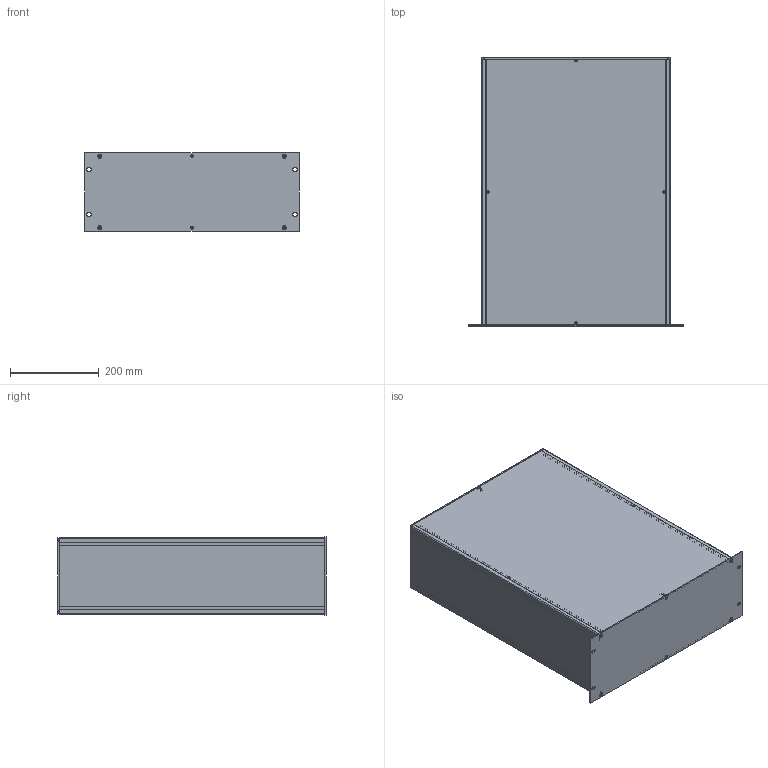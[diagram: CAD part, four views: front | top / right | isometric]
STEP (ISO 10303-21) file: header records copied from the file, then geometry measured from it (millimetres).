
FILE_DESCRIPTION(/* description */ (''),/* implementation_level */ '2;1');
FILE_NAME(/* name */ '//diskstation/Kunden/Gehäuse/Gehäuse/4HE/step/Zoll 4HE Rack Gehäuse Tiefe-600.step',/* time_stamp */ '2022-02-17T15:47:50+01:00',/* author */ (''),/* organization */ (''),/* preprocessor_version */ 'ST-DEVELOPER v18.1',/* originating_system */ 'Autodesk Translation Framework v10.10.0.1391',/* authorisation */ '');
FILE_SCHEMA (('AUTOMOTIVE_DESIGN { 1 0 10303 214 3 1 1 }'));
Length unit declared in the file: millimetre
Products named in the file (28): 4HE Gehäuse mit parametern; Gehäuse; Gehäuseprofil 1 unten links; Gehäuseprofil 2 oben rechts; Gehäuseprofil 1 unten rechts; Gehäuseprofil 2 oben links; Rückplatte; Deckel; Seitenteil links; Seitenteil rechts; Bodenplatte; Montageklotz Front/Deckel; Montageklotz Front/Boden; Montageklotz Rück/Deckel; Montageklotz Rück/Boden; Gewindestreifen; Frontplatte; Schrauben M5; Schraube Front; Schraube Front (1); Schraube Front (2); Schraube Front (3); Schraube Rück (1); Schraube Rück; Schraube Rück (2); Schraube Rück (3); Schrauben M3; HI_Senkschraube DIN 965 A v2 M3x5 24677.030.005(High)
Assembly tree (37 placements, depth 3):
  4HE Gehäuse mit parametern
    Gehäuse
      Gehäuseprofil 1 unten links
      Gehäuseprofil 2 oben rechts
      Gehäuseprofil 1 unten rechts
      Gehäuseprofil 2 oben links
      Rückplatte
      Deckel
      Seitenteil links
      Seitenteil rechts
      Bodenplatte
      Montageklotz Front/Deckel
      Montageklotz Front/Boden
      Montageklotz Rück/Deckel
      Montageklotz Rück/Boden
      Gewindestreifen  x2
    Frontplatte
    Schrauben M5
      Schraube Front
      Schraube Front (1)
      Schraube Front (2)
      Schraube Front (3)
      Schraube Rück (1)
      Schraube Rück
      Schraube Rück (2)
      Schraube Rück (3)
    Schrauben M3
      HI_Senkschraube DIN 965 A v2 M3x5 24677.030.005(High)  x10
Bounding box: 483 x 608.2 x 177 mm (x, y, z)
Volume: 2190497.4 mm3; surface area: 1923357.7 mm2
Topology: 34 solids, 34 shells, 944 faces, 2346 edges, 1470 vertices
Faces by surface type: cylinder 422, plane 342, cone 164, torus 8, bspline 8
Full cylindrical faces by diameter (mm): 2.529 x180, 3 x10, 3.2 x10, 4.234 x40, 5 x8, 5.2 x4, 5.3 x8, 5.6 x10, 9.5 x8
Entity records: 18600 total; most frequent: CARTESIAN_POINT 3348, DIRECTION 3135, ORIENTED_EDGE 2760, EDGE_CURVE 1380, AXIS2_PLACEMENT_3D 1195, VERTEX_POINT 868, EDGE_LOOP 866, LINE 745
